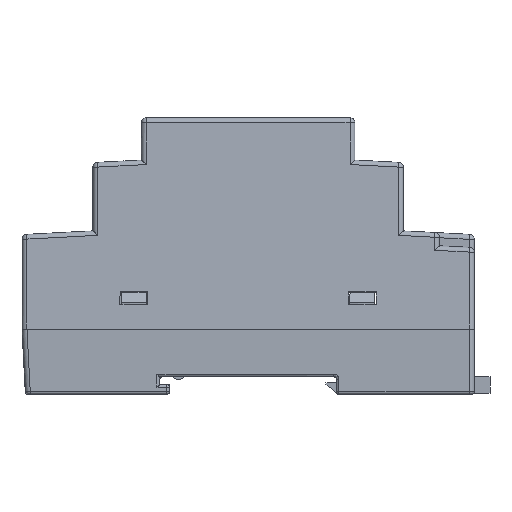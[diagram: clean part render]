
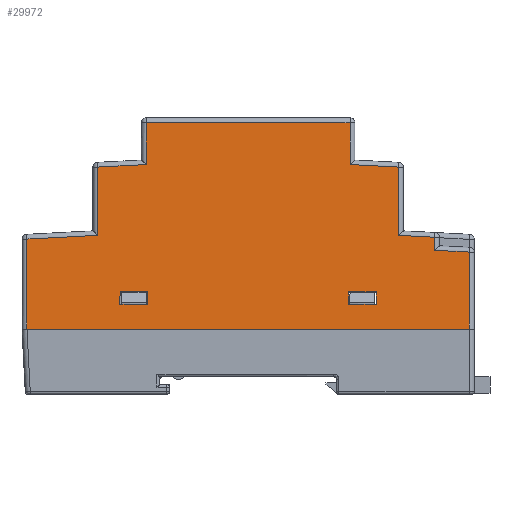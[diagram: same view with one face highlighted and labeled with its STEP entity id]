
A CAD part, left-side view. The second image highlights one B-rep face of the part: STEP entity #29972.
In plain terms, the highlighted planar face has unit normal (-0.999, 0, 0.052).
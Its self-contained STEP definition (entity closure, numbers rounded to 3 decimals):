
#16943=CARTESIAN_POINT('',(-33.765,20.5,33.103));
#17690=DIRECTION('',(0.052,0.,0.999));
#17691=VECTOR('',#17690,13.758);
#17692=CARTESIAN_POINT('',(-34.512,-30.25,18.853));
#17693=LINE('',#17692,#17691);
#17770=DIRECTION('',(-0.003,-0.999,-0.052));
#17771=VECTOR('',#17770,7.01);
#17772=CARTESIAN_POINT('',(-34.669,-37.5,15.853));
#17773=LINE('',#17772,#17771);
#17777=DIRECTION('',(0.003,-0.999,0.052));
#17778=VECTOR('',#17777,14.27);
#17779=CARTESIAN_POINT('',(-34.551,44.5,18.107));
#17780=LINE('',#17779,#17778);
#17784=DIRECTION('',(0.003,-0.999,0.052));
#17785=VECTOR('',#17784,9.763);
#17786=CARTESIAN_POINT('',(-33.792,30.25,32.592));
#17787=LINE('',#17786,#17785);
#17791=DIRECTION('',(-0.003,-0.999,-0.052));
#17792=VECTOR('',#17791,9.763);
#17793=CARTESIAN_POINT('',(-33.765,-20.5,33.103));
#17794=LINE('',#17793,#17792);
#17798=DIRECTION('',(-0.003,-0.999,-0.052));
#17799=VECTOR('',#17798,7.26);
#17800=CARTESIAN_POINT('',(-34.512,-30.25,18.853));
#17801=LINE('',#17800,#17799);
#17805=DIRECTION('',(0.052,0.016,0.999));
#17806=VECTOR('',#17805,2.554);
#17807=CARTESIAN_POINT('',(-35.241,-25.808,4.95));
#17808=LINE('',#17807,#17806);
#17812=DIRECTION('',(0.,-1.,0.));
#17813=VECTOR('',#17812,5.537);
#17814=CARTESIAN_POINT('',(-35.107,-20.232,7.5));
#17815=LINE('',#17814,#17813);
#17819=DIRECTION('',(0.052,-0.016,0.999));
#17820=VECTOR('',#17819,2.554);
#17821=CARTESIAN_POINT('',(-35.241,-20.192,4.95));
#17822=LINE('',#17821,#17820);
#17826=DIRECTION('',(0.,-1.,0.));
#17827=VECTOR('',#17826,5.617);
#17828=CARTESIAN_POINT('',(-35.241,-20.192,4.95));
#17829=LINE('',#17828,#17827);
#17833=DIRECTION('',(0.052,0.016,0.999));
#17834=VECTOR('',#17833,2.554);
#17835=CARTESIAN_POINT('',(-35.241,20.192,4.95));
#17836=LINE('',#17835,#17834);
#17840=DIRECTION('',(0.,-1.,0.));
#17841=VECTOR('',#17840,5.537);
#17842=CARTESIAN_POINT('',(-35.107,25.768,7.5));
#17843=LINE('',#17842,#17841);
#17847=DIRECTION('',(0.052,-0.016,0.999));
#17848=VECTOR('',#17847,2.554);
#17849=CARTESIAN_POINT('',(-35.241,25.808,4.95));
#17850=LINE('',#17849,#17848);
#17854=DIRECTION('',(0.,-1.,0.));
#17855=VECTOR('',#17854,5.617);
#17856=CARTESIAN_POINT('',(-35.241,25.808,4.95));
#17857=LINE('',#17856,#17855);
#17861=DIRECTION('',(0.052,0.,0.999));
#17862=VECTOR('',#17861,2.624);
#17863=CARTESIAN_POINT('',(-34.669,-37.5,15.853));
#17864=LINE('',#17863,#17862);
#17892=CARTESIAN_POINT('',(-34.512,-30.25,18.853));
#17977=DIRECTION('',(0.,-1.,0.));
#17978=VECTOR('',#17977,89.);
#17979=CARTESIAN_POINT('',(-35.5,44.5,0.));
#17980=LINE('',#17979,#17978);
#18063=DIRECTION('',(0.052,0.,0.999));
#18064=VECTOR('',#18063,15.508);
#18065=CARTESIAN_POINT('',(-35.5,-44.5,0.));
#18066=LINE('',#18065,#18064);
#19352=DIRECTION('',(-0.052,0.,
-0.999));
#19353=VECTOR('',#19352,13.758);
#19354=CARTESIAN_POINT('',(-33.792,30.25,32.592));
#19355=LINE('',#19354,#19353);
#19395=DIRECTION('',(-0.052,0.,
-0.999));
#19396=VECTOR('',#19395,18.131);
#19397=CARTESIAN_POINT('',(-34.551,44.5,18.107));
#19398=LINE('',#19397,#19396);
#24435=DIRECTION('',(0.,1.,0.));
#24436=VECTOR('',#24435,41.);
#24437=CARTESIAN_POINT('',(-33.322,-20.5,41.552));
#24438=LINE('',#24437,#24436);
#24473=DIRECTION('',(0.052,0.,0.999));
#24474=VECTOR('',#24473,8.461);
#24475=CARTESIAN_POINT('',(-33.765,-20.5,33.103));
#24476=LINE('',#24475,#24474);
#24480=DIRECTION('',(-0.052,0.,
-0.999));
#24481=VECTOR('',#24480,8.461);
#24482=CARTESIAN_POINT('',(-33.322,20.5,41.552));
#24483=LINE('',#24482,#24481);
#27450=CARTESIAN_POINT('',(-33.792,30.25,32.592));
#27451=VERTEX_POINT('',#27450);
#27454=VERTEX_POINT('',#16943);
#27728=CARTESIAN_POINT('',(-33.792,-30.25,32.592));
#27729=VERTEX_POINT('',#27728);
#27731=VERTEX_POINT('',#17892);
#27736=CARTESIAN_POINT('',(-33.765,-20.5,33.103));
#27737=VERTEX_POINT('',#27736);
#27738=CARTESIAN_POINT('',(-34.669,-37.5,15.853));
#27739=CARTESIAN_POINT('',(-34.532,-37.5,18.473));
#27740=VERTEX_POINT('',#27738);
#27741=VERTEX_POINT('',#27739);
#27742=CARTESIAN_POINT('',(-34.688,-44.5,15.487));
#27743=VERTEX_POINT('',#27742);
#27744=CARTESIAN_POINT('',(-35.5,-44.5,0.));
#27745=VERTEX_POINT('',#27744);
#27746=CARTESIAN_POINT('',(-35.5,44.5,0.));
#27747=VERTEX_POINT('',#27746);
#27748=CARTESIAN_POINT('',(-34.551,44.5,18.107));
#27749=VERTEX_POINT('',#27748);
#27750=CARTESIAN_POINT('',(-34.512,30.25,18.853));
#27751=VERTEX_POINT('',#27750);
#27752=CARTESIAN_POINT('',(-33.322,20.5,41.552));
#27753=VERTEX_POINT('',#27752);
#27754=CARTESIAN_POINT('',(-33.322,-20.5,41.552));
#27755=VERTEX_POINT('',#27754);
#29102=CARTESIAN_POINT('',(-35.241,-25.808,4.95));
#29103=CARTESIAN_POINT('',(-35.107,-25.768,7.5));
#29104=VERTEX_POINT('',#29102);
#29105=VERTEX_POINT('',#29103);
#29106=CARTESIAN_POINT('',(-35.241,-20.192,4.95));
#29107=CARTESIAN_POINT('',(-35.107,-20.232,7.5));
#29108=VERTEX_POINT('',#29106);
#29109=VERTEX_POINT('',#29107);
#29166=CARTESIAN_POINT('',(-35.241,20.192,4.95));
#29167=CARTESIAN_POINT('',(-35.107,20.232,7.5));
#29168=VERTEX_POINT('',#29166);
#29169=VERTEX_POINT('',#29167);
#29170=CARTESIAN_POINT('',(-35.241,25.808,4.95));
#29171=CARTESIAN_POINT('',(-35.107,25.768,7.5));
#29172=VERTEX_POINT('',#29170);
#29173=VERTEX_POINT('',#29171);
#29920=CARTESIAN_POINT('',(-35.5,-46.976,0.));
#29921=DIRECTION('',(0.999,0.,-0.052));
#29922=DIRECTION('',(0.,-1.,0.));
#29923=AXIS2_PLACEMENT_3D('',#29920,#29921,#29922);
#29924=PLANE('',#29923);
#29926=ORIENTED_EDGE('',*,*,#29925,.F.);
#29928=ORIENTED_EDGE('',*,*,#29927,.T.);
#29930=ORIENTED_EDGE('',*,*,#29929,.F.);
#29932=ORIENTED_EDGE('',*,*,#29931,.F.);
#29934=ORIENTED_EDGE('',*,*,#29933,.F.);
#29936=ORIENTED_EDGE('',*,*,#29935,.T.);
#29938=ORIENTED_EDGE('',*,*,#29937,.F.);
#29939=ORIENTED_EDGE('',*,*,#29353,.T.);
#29941=ORIENTED_EDGE('',*,*,#29940,.F.);
#29943=ORIENTED_EDGE('',*,*,#29942,.F.);
#29945=ORIENTED_EDGE('',*,*,#29944,.F.);
#29946=ORIENTED_EDGE('',*,*,#29912,.T.);
#29947=ORIENTED_EDGE('',*,*,#29859,.F.);
#29949=ORIENTED_EDGE('',*,*,#29948,.T.);
#29950=EDGE_LOOP('',(#29926,#29928,#29930,#29932,#29934,#29936,#29938,#29939,
#29941,#29943,#29945,#29946,#29947,#29949));
#29951=FACE_OUTER_BOUND('',#29950,.F.);
#29953=ORIENTED_EDGE('',*,*,#29952,.T.);
#29955=ORIENTED_EDGE('',*,*,#29954,.F.);
#29957=ORIENTED_EDGE('',*,*,#29956,.F.);
#29959=ORIENTED_EDGE('',*,*,#29958,.T.);
#29960=EDGE_LOOP('',(#29953,#29955,#29957,#29959));
#29961=FACE_BOUND('',#29960,.F.);
#29963=ORIENTED_EDGE('',*,*,#29962,.T.);
#29965=ORIENTED_EDGE('',*,*,#29964,.F.);
#29967=ORIENTED_EDGE('',*,*,#29966,.F.);
#29969=ORIENTED_EDGE('',*,*,#29968,.T.);
#29970=EDGE_LOOP('',(#29963,#29965,#29967,#29969));
#29971=FACE_BOUND('',#29970,.F.);
#29353=EDGE_CURVE('',#27451,#27454,#17787,.T.);
#29859=EDGE_CURVE('',#27731,#27729,#17693,.T.);
#29912=EDGE_CURVE('',#27737,#27729,#17794,.T.);
#29925=EDGE_CURVE('',#27740,#27741,#17864,.T.);
#29927=EDGE_CURVE('',#27740,#27743,#17773,.T.);
#29929=EDGE_CURVE('',#27745,#27743,#18066,.T.);
#29931=EDGE_CURVE('',#27747,#27745,#17980,.T.);
#29933=EDGE_CURVE('',#27749,#27747,#19398,.T.);
#29935=EDGE_CURVE('',#27749,#27751,#17780,.T.);
#29937=EDGE_CURVE('',#27451,#27751,#19355,.T.);
#29940=EDGE_CURVE('',#27753,#27454,#24483,.T.);
#29942=EDGE_CURVE('',#27755,#27753,#24438,.T.);
#29944=EDGE_CURVE('',#27737,#27755,#24476,.T.);
#29948=EDGE_CURVE('',#27731,#27741,#17801,.T.);
#29952=EDGE_CURVE('',#29104,#29105,#17808,.T.);
#29954=EDGE_CURVE('',#29109,#29105,#17815,.T.);
#29956=EDGE_CURVE('',#29108,#29109,#17822,.T.);
#29958=EDGE_CURVE('',#29108,#29104,#17829,.T.);
#29962=EDGE_CURVE('',#29168,#29169,#17836,.T.);
#29964=EDGE_CURVE('',#29173,#29169,#17843,.T.);
#29966=EDGE_CURVE('',#29172,#29173,#17850,.T.);
#29968=EDGE_CURVE('',#29172,#29168,#17857,.T.);
#29972=ADVANCED_FACE('',(#29951,#29961,#29971),#29924,.F.);
